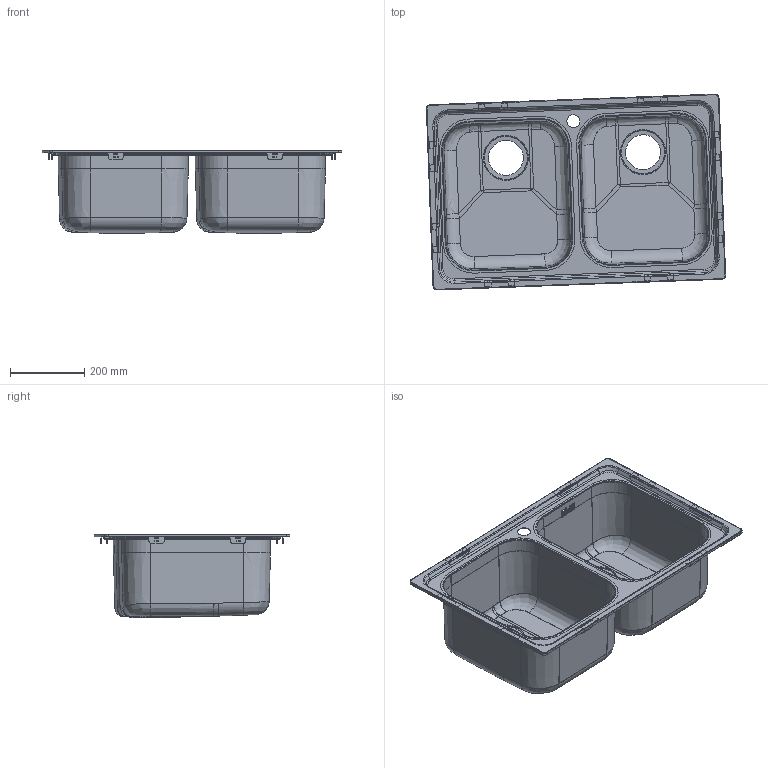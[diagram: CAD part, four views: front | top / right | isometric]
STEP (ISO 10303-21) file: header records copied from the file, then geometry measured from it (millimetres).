
FILE_DESCRIPTION(/* description */ (''),/* implementation_level */ '2;1');
FILE_NAME(/* name */ 'SP792-2.stp',/* time_stamp */ '2016-05-27T09:57:20+02:00',/* author */ (''),/* organization */ (''),/* preprocessor_version */ 'ST-DEVELOPER v11',/* originating_system */ 'SIEMENS PLM Software NX 7.5',/* authorisation */ '');
FILE_SCHEMA (('AUTOMOTIVE_DESIGN { 1 0 10303 214 1 1 1 1 }'));
Length unit declared in the file: millimetre
Products named in the file (1): FAVEB203tse2
Bounding box: 807.43 x 528.5 x 226.41 mm (x, y, z)
Volume: 668284.5 mm3; surface area: 1916195.8 mm2
Topology: 11 solids, 11 shells, 861 faces, 2298 edges, 1422 vertices
Faces by surface type: cylinder 344, plane 305, bspline 120, torus 48, cone 36, sphere 8
Full cylindrical faces by diameter (mm): 6.5 x1, 35 x1, 94 x2
Entity records: 40620 total; most frequent: CARTESIAN_POINT 19871, ORIENTED_EDGE 4538, DIRECTION 4004, EDGE_CURVE 2269, AXIS2_PLACEMENT_3D 1452, VERTEX_POINT 1413, LINE 1100, VECTOR 1100
